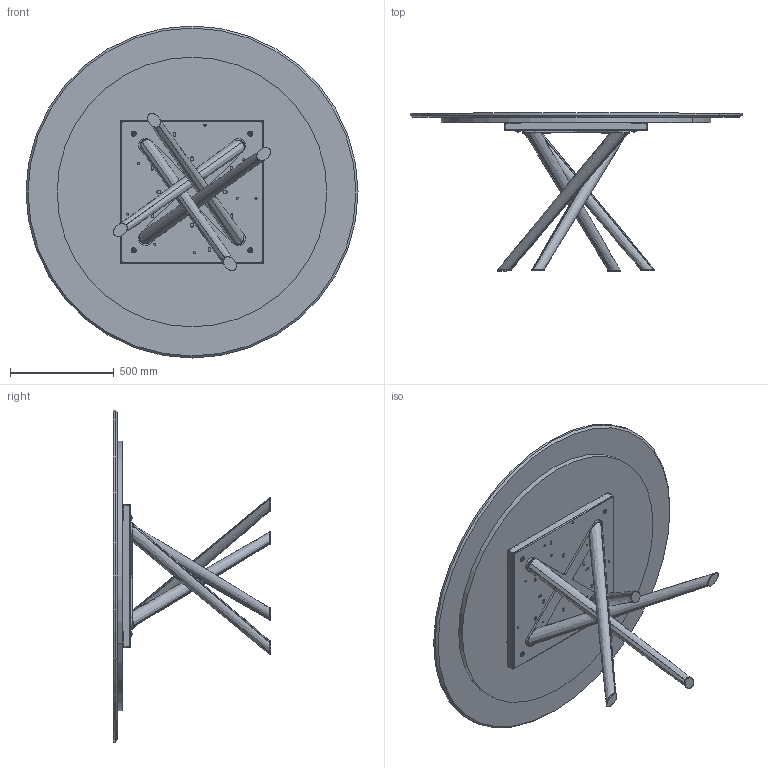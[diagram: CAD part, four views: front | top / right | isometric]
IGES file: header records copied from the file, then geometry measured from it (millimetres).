
Start section: SolidWorks IGES file using analytic representation for surfaces
Global section: file name: Y:\eforma\TECNICO\SOLIDWORKS\E-FORMA\1-TAVOLI\BALY\02 parts\BA08M.IGS; native system: SolidWorks 2022; preprocessor: SolidWorks 2022; author: eforma.tech; date: 240808.083725; units: millimetre
Bounding box: 1600 x 760 x 1600 mm (x, y, z)
Volume: 77819603.4 mm3; surface area: 9663658.9 mm2
Topology: 24 solids, 24 shells, 715 faces, 1831 edges, 1155 vertices
Faces by surface type: revolution 395, plane 312, bspline 8
